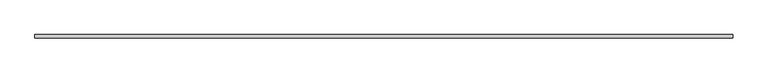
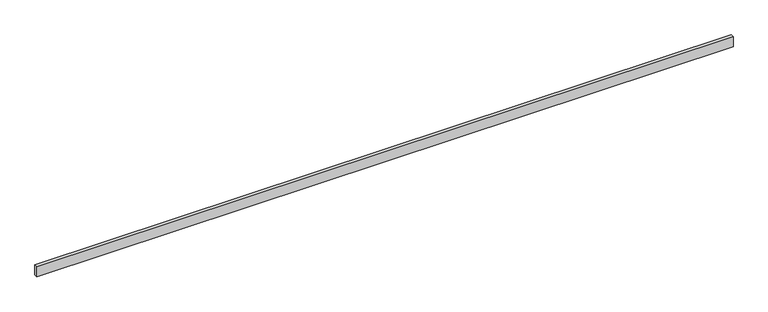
"""IFC4 building model written with IfcOpenShell, lengths in millimetres: proxy geometry, Кабель-каналы_магистральные_цвет-белый : Кабель-канал магистральный 30/2х10 белый."""

from ifc_helpers import new_model, si_unit, origin, origin_with_axes, place, context, project, spatial, polyline, outline, extrude, source, transform, mapped, element, save


def generic_models_36f187a9(model_context):
    return source(origin(), model_context, "Body", "SweptSolid", [
        extrude(outline(polyline([(2000.0, -10.0), (0.0, -10.0), (0.0, 0.0), (2000.0, 0.0), (2000.0, -10.0)])), origin_with_axes(), (0.0, 0.0, 1.0), 30.0),
    ])


if __name__ == "__main__":
    model = new_model("IFC4")
    model_context = context("Model", 3, world=origin())
    ifc_project = project(units=[si_unit("LENGTHUNIT", "METRE", prefix="MILLI")], contexts=[model_context])
    site = spatial("IfcSite", under=ifc_project)
    building = spatial("IfcBuilding", under=site)
    placement = place(None, origin())
    generic_models_shape = generic_models_36f187a9(model_context)
    element("IfcBuildingElementProxy", 1, Name="Кабель-каналы_магистральные_цвет-белый : Кабель-канал магистральный 30/2х10 белый", ObjectType="Кабель-каналы_магистральные_цвет-белый : Кабель-канал магистральный 30/2х10 белый", at=placement, inside=building, context=model_context, shape_type="MappedRepresentation", body=[
        mapped(generic_models_shape, transform((0.0, 0.0, 0.0), x_axis=(1.0, 0.0, 0.0), y_axis=(0.0, 1.0, 0.0), z_axis=(0.0, 0.0, 1.0))),
    ])
    save(model, "model.ifc")
